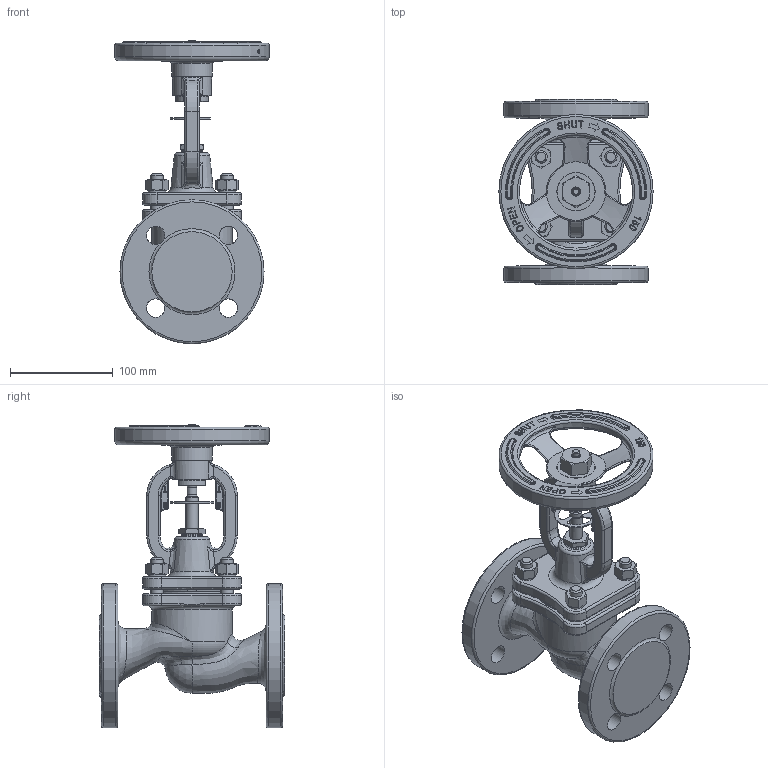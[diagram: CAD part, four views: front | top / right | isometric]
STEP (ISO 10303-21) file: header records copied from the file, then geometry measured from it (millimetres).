
FILE_DESCRIPTION(/* description */ (''),/* implementation_level */ '2;1');
FILE_NAME(/* name */ 'ZV226E_DN32_PN40.stp',/* time_stamp */ '2014-09-30T06:36:30+02:00',/* author */ (''),/* organization */ (''),/* preprocessor_version */ 'ST-DEVELOPER v15',/* originating_system */ 'SIEMENS PLM Software NX 8.5',/* authorisation */ '');
FILE_SCHEMA (('AP203_CONFIGURATION_CONTROLLED_3D_DESIGN_OF_MECHANICAL_PARTS_AND_ASSEMBLIES_MIM_LF { 1 0 10303 403 2 1 2}'));
Length unit declared in the file: millimetre
Products named in the file (1): adam0F487721p5aj
Bounding box: 150 x 180 x 295.1 mm (x, y, z)
Volume: 1367887.9 mm3; surface area: 212591.7 mm2
Topology: 1 solids, 1 shells, 797 faces, 2008 edges, 1228 vertices
Faces by surface type: plane 305, cylinder 157, torus 122, bspline 101, cone 84, extrusion 23, sphere 5
Full cylindrical faces by diameter (mm): 2 x4, 4 x5, 7 x1, 9 x2, 12 x14, 18 x8, 19.7 x1, 22 x1, 24 x1, 25 x1, 35 x2, 37 x1, 37.2 x1, 39 x1, 72 x1, 78 x2, 110 x1, 113 x1, 132 x1, 140 x2, 147 x1, 150 x1
Entity records: 29380 total; most frequent: CARTESIAN_POINT 12130, ORIENTED_EDGE 3666, DIRECTION 3257, EDGE_CURVE 1833, AXIS2_PLACEMENT_3D 1348, VERTEX_POINT 1171, EDGE_LOOP 984, ADVANCED_FACE 796
